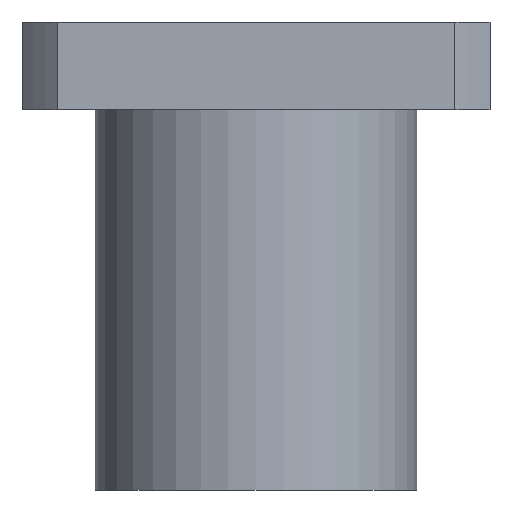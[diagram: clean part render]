
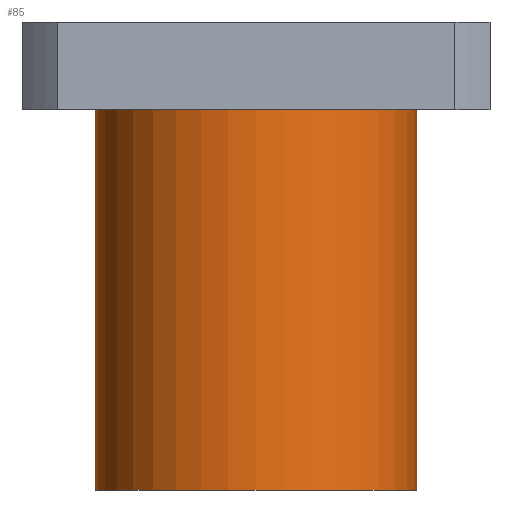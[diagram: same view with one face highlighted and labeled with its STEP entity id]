
A CAD part, front view. The second image highlights one B-rep face of the part: STEP entity #85.
In plain terms, the highlighted cylindrical face has radius 11 mm (diameter 22 mm), a partial arc.
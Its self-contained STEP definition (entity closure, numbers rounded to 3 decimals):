
#44=CARTESIAN_POINT('',(0.0,0.0,0.0));
#45=DIRECTION('',(0.0,0.0,1.0));
#46=DIRECTION('',(-1.0,0.0,0.0));
#47=AXIS2_PLACEMENT_3D('',#44,#45,#46);
#48=CYLINDRICAL_SURFACE('',#47,11.0);
#49=CARTESIAN_POINT('',(-11.0,0.,0.0));
#50=VERTEX_POINT('',#49);
#51=CARTESIAN_POINT('',(-11.0,0.,26.));
#52=VERTEX_POINT('',#51);
#53=CARTESIAN_POINT('',(-11.0,0.,0.0));
#54=DIRECTION('',(0.0,0.0,1.0));
#55=VECTOR('',#54,26.);
#56=LINE('',#53,#55);
#57=EDGE_CURVE('',#50,#52,#56,.T.);
#58=ORIENTED_EDGE('',*,*,#57,.F.);
#59=CARTESIAN_POINT('',(11.0,0.,0.0));
#60=VERTEX_POINT('',#59);
#61=CARTESIAN_POINT('',(0.0,0.0,0.0));
#62=DIRECTION('',(0.0,0.0,-1.0));
#63=DIRECTION('',(-1.0,0.0,0.0));
#64=AXIS2_PLACEMENT_3D('',#61,#62,#63);
#65=CIRCLE('',#64,11.0);
#66=EDGE_CURVE('',#60,#50,#65,.T.);
#67=ORIENTED_EDGE('',*,*,#66,.F.);
#68=CARTESIAN_POINT('',(11.0,0.,26.0));
#69=VERTEX_POINT('',#68);
#70=CARTESIAN_POINT('',(11.0,0.,26.0));
#71=DIRECTION('',(0.0,0.0,-1.0));
#72=VECTOR('',#71,26.0);
#73=LINE('',#70,#72);
#74=EDGE_CURVE('',#69,#60,#73,.T.);
#75=ORIENTED_EDGE('',*,*,#74,.F.);
#76=CARTESIAN_POINT('',(0.0,0.0,26.));
#77=DIRECTION('',(0.0,0.0,-1.0));
#78=DIRECTION('',(-1.0,0.0,0.0));
#79=AXIS2_PLACEMENT_3D('',#76,#77,#78);
#80=CIRCLE('',#79,11.0);
#81=EDGE_CURVE('',#69,#52,#80,.T.);
#82=ORIENTED_EDGE('',*,*,#81,.T.);
#83=EDGE_LOOP('',(#58,#67,#75,#82));
#84=FACE_OUTER_BOUND('',#83,.T.);
#85=ADVANCED_FACE('',(#84),#48,.T.);
